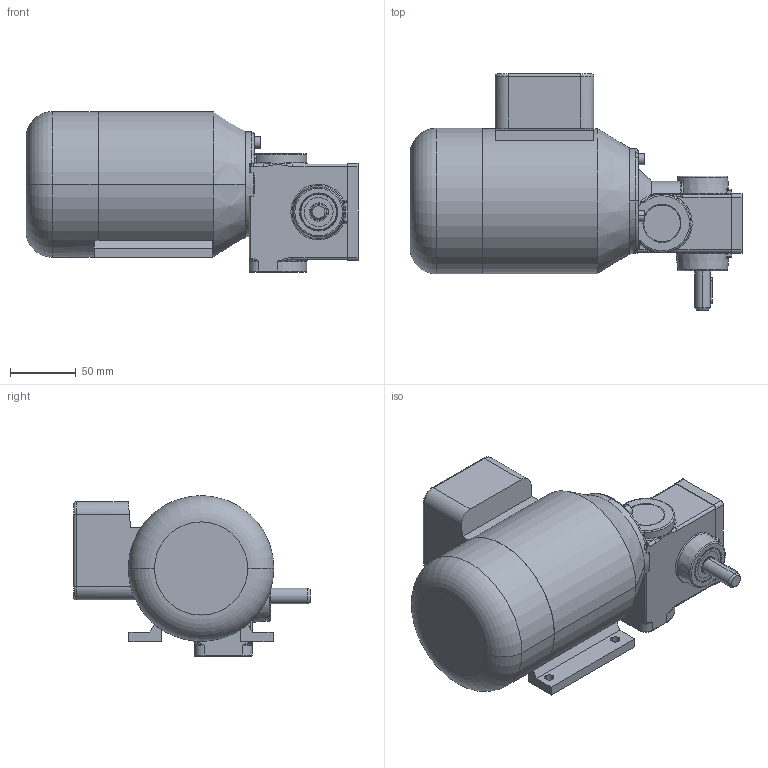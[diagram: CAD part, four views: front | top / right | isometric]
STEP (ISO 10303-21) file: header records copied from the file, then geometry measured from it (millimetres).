
FILE_DESCRIPTION (( 'STEP AP214' ), '1' );
FILE_NAME ('SN6_90W_1400Upm_Drehstrom-Motor_A.STEP', '2021-08-10T12:17:06', ( '' ), ( '' ), 'SwSTEP 2.0', 'SolidWorks 2019', '' );
FILE_SCHEMA (( 'AUTOMOTIVE_DESIGN' ));
Length unit declared in the file: millimetre
Products named in the file (12): SN6_90W_1400Upm_Drehstrom-Motor_A; 06-W-001_3D_Export; K_28x4.0; 06-G-001_3D_Export; SN6_3D_Export; socket head cap screw_iso_ISO 4762 M3 x 10 - 10C; PF_A4x4x20; NBR_WDR_12x28x7; socket head cap screw_iso_ISO 4762 M5 x 16 - 16C; 06-M-017 I 90W_1400Upm_B3; K_28x9.0; 06F-D-003_3D-Export
Assembly tree (17 placements, depth 3):
  SN6_90W_1400Upm_Drehstrom-Motor_A
    SN6_3D_Export
      06-G-001_3D_Export
      06F-D-003_3D-Export
      06-W-001_3D_Export
      PF_A4x4x20
      NBR_WDR_12x28x7
      K_28x9.0
      K_28x4.0  x2
      socket head cap screw_iso_ISO 4762 M5 x 16 - 16C  x3
      socket head cap screw_iso_ISO 4762 M3 x 10 - 10C  x4
    06-M-017 I 90W_1400Upm_B3
Bounding box: 253 x 180.2 x 122.5 mm (x, y, z)
Volume: 2153099.3 mm3; surface area: 161206.7 mm2
Topology: 16 solids, 16 shells, 630 faces, 1464 edges, 859 vertices
Faces by surface type: plane 213, cylinder 211, cone 84, torus 69, bspline 42, sphere 11
Entity records: 16183 total; most frequent: CARTESIAN_POINT 4403, DIRECTION 2498, ORIENTED_EDGE 2232, EDGE_CURVE 1116, AXIS2_PLACEMENT_3D 1023, VERTEX_POINT 685, CIRCLE 556, EDGE_LOOP 549
